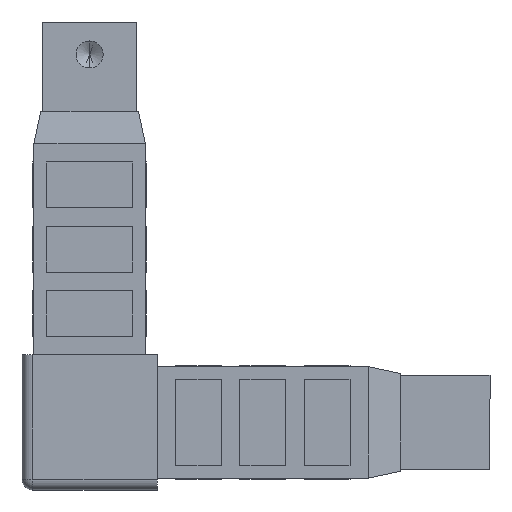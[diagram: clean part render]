
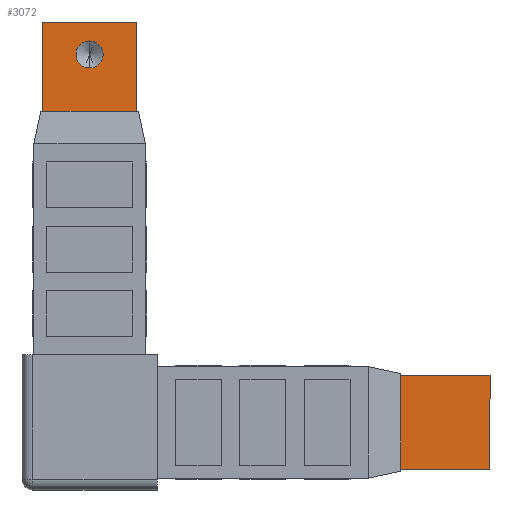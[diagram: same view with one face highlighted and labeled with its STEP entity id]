
A CAD part, left-side view. The second image highlights one B-rep face of the part: STEP entity #3072.
In plain terms, the highlighted planar face has unit normal (-1, 0, 0).
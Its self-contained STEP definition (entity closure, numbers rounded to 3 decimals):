
#147 = EDGE_CURVE ( 'NONE', #2911, #3949, #3726, .T. ) ;
#178 = VERTEX_POINT ( 'NONE', #2495 ) ;
#357 = VERTEX_POINT ( 'NONE', #3403 ) ;
#432 = CARTESIAN_POINT ( 'NONE',  ( -8.75, 8.75, 74. ) ) ;
#585 = CARTESIAN_POINT ( 'NONE',  ( -8.75, -8.75, 8.75 ) ) ;
#602 = CARTESIAN_POINT ( 'NONE',  ( -8.75, -74., 8.75 ) ) ;
#613 = ORIENTED_EDGE ( 'NONE', *, *, #147, .F. ) ;
#736 = PLANE ( 'NONE',  #4238 ) ;
#770 = FACE_BOUND ( 'NONE', #4743, .T. ) ;
#833 = VERTEX_POINT ( 'NONE', #2129 ) ;
#867 = CARTESIAN_POINT ( 'NONE',  ( -8.75, 8.75, -8.75 ) ) ;
#935 = VECTOR ( 'NONE', #1376, 1000. ) ;
#945 = EDGE_CURVE ( 'NONE', #4771, #3411, #3117, .T. ) ;
#988 = DIRECTION ( 'NONE',  ( 0., 0., 1. ) ) ;
#996 = EDGE_CURVE ( 'NONE', #833, #178, #4018, .T. ) ;
#1257 = DIRECTION ( 'NONE',  ( 0., 0., 1. ) ) ;
#1375 = LINE ( 'NONE', #4175, #4587 ) ;
#1376 = DIRECTION ( 'NONE',  ( 0., 0., -1. ) ) ;
#1497 = CARTESIAN_POINT ( 'NONE',  ( -8.75, 8.75, -8.75 ) ) ;
#1559 = VECTOR ( 'NONE', #1257, 1000. ) ;
#1581 = ORIENTED_EDGE ( 'NONE', *, *, #4057, .F. ) ;
#1644 = ORIENTED_EDGE ( 'NONE', *, *, #2665, .F. ) ;
#1793 = LINE ( 'NONE', #4437, #4894 ) ;
#1809 = CIRCLE ( 'NONE', #3105, 2.5 ) ;
#2099 = EDGE_LOOP ( 'NONE', ( #4232, #3504, #1644, #3976, #4310, #1581 ) ) ;
#2100 = DIRECTION ( 'NONE',  ( 0., -1., 0. ) ) ;
#2129 = CARTESIAN_POINT ( 'NONE',  ( -8.75, -8.75, 74. ) ) ;
#2214 = CARTESIAN_POINT ( 'NONE',  ( -8.75, 0., 68. ) ) ;
#2342 = CARTESIAN_POINT ( 'NONE',  ( -8.75, 0., 65.5 ) ) ;
#2387 = CARTESIAN_POINT ( 'NONE',  ( -8.75, -74., -8.75 ) ) ;
#2495 = CARTESIAN_POINT ( 'NONE',  ( -8.75, -8.75, 8.75 ) ) ;
#2597 = ORIENTED_EDGE ( 'NONE', *, *, #3168, .F. ) ;
#2617 = DIRECTION ( 'NONE',  ( 0., 0., 1. ) ) ;
#2629 = DIRECTION ( 'NONE',  ( 0., 1., 0. ) ) ;
#2662 = LINE ( 'NONE', #432, #2780 ) ;
#2665 = EDGE_CURVE ( 'NONE', #178, #4771, #1793, .T. ) ;
#2773 = AXIS2_PLACEMENT_3D ( 'NONE', #3975, #3267, #3588 ) ;
#2780 = VECTOR ( 'NONE', #3135, 1000. ) ;
#2911 = VERTEX_POINT ( 'NONE', #3366 ) ;
#2913 = DIRECTION ( 'NONE',  ( 0., 0., -1. ) ) ;
#2997 = EDGE_CURVE ( 'NONE', #3411, #3548, #1375, .T. ) ;
#3072 = ADVANCED_FACE ( 'NONE', ( #770, #3869 ), #736, .T. ) ;
#3105 = AXIS2_PLACEMENT_3D ( 'NONE', #2214, #4947, #2617 ) ;
#3117 = LINE ( 'NONE', #4842, #4943 ) ;
#3135 = DIRECTION ( 'NONE',  ( 0., -1., 0. ) ) ;
#3168 = EDGE_CURVE ( 'NONE', #3949, #2911, #1809, .T. ) ;
#3267 = DIRECTION ( 'NONE',  ( -1., 0., 0. ) ) ;
#3295 = DIRECTION ( 'NONE',  ( -1., 0., 0. ) ) ;
#3366 = CARTESIAN_POINT ( 'NONE',  ( -8.75, 0., 70.5 ) ) ;
#3403 = CARTESIAN_POINT ( 'NONE',  ( -8.75, 8.75, 74. ) ) ;
#3411 = VERTEX_POINT ( 'NONE', #2387 ) ;
#3504 = ORIENTED_EDGE ( 'NONE', *, *, #945, .F. ) ;
#3548 = VERTEX_POINT ( 'NONE', #1497 ) ;
#3588 = DIRECTION ( 'NONE',  ( 0., 0., 1. ) ) ;
#3726 = CIRCLE ( 'NONE', #2773, 2.5 ) ;
#3869 = FACE_OUTER_BOUND ( 'NONE', #2099, .T. ) ;
#3949 = VERTEX_POINT ( 'NONE', #2342 ) ;
#3975 = CARTESIAN_POINT ( 'NONE',  ( -8.75, 0., 68. ) ) ;
#3976 = ORIENTED_EDGE ( 'NONE', *, *, #996, .F. ) ;
#4018 = LINE ( 'NONE', #585, #935 ) ;
#4057 = EDGE_CURVE ( 'NONE', #3548, #357, #4397, .T. ) ;
#4175 = CARTESIAN_POINT ( 'NONE',  ( -8.75, 8.75, -8.75 ) ) ;
#4232 = ORIENTED_EDGE ( 'NONE', *, *, #2997, .F. ) ;
#4238 = AXIS2_PLACEMENT_3D ( 'NONE', #4241, #3295, #988 ) ;
#4241 = CARTESIAN_POINT ( 'NONE',  ( -8.75, 0., 0. ) ) ;
#4310 = ORIENTED_EDGE ( 'NONE', *, *, #4627, .F. ) ;
#4397 = LINE ( 'NONE', #867, #1559 ) ;
#4437 = CARTESIAN_POINT ( 'NONE',  ( -8.75, -8.75, 8.75 ) ) ;
#4587 = VECTOR ( 'NONE', #2629, 1000. ) ;
#4627 = EDGE_CURVE ( 'NONE', #357, #833, #2662, .T. ) ;
#4743 = EDGE_LOOP ( 'NONE', ( #613, #2597 ) ) ;
#4771 = VERTEX_POINT ( 'NONE', #602 ) ;
#4842 = CARTESIAN_POINT ( 'NONE',  ( -8.75, -74., -8.75 ) ) ;
#4894 = VECTOR ( 'NONE', #2100, 1000. ) ;
#4943 = VECTOR ( 'NONE', #2913, 1000. ) ;
#4947 = DIRECTION ( 'NONE',  ( -1., 0., 0. ) ) ;
